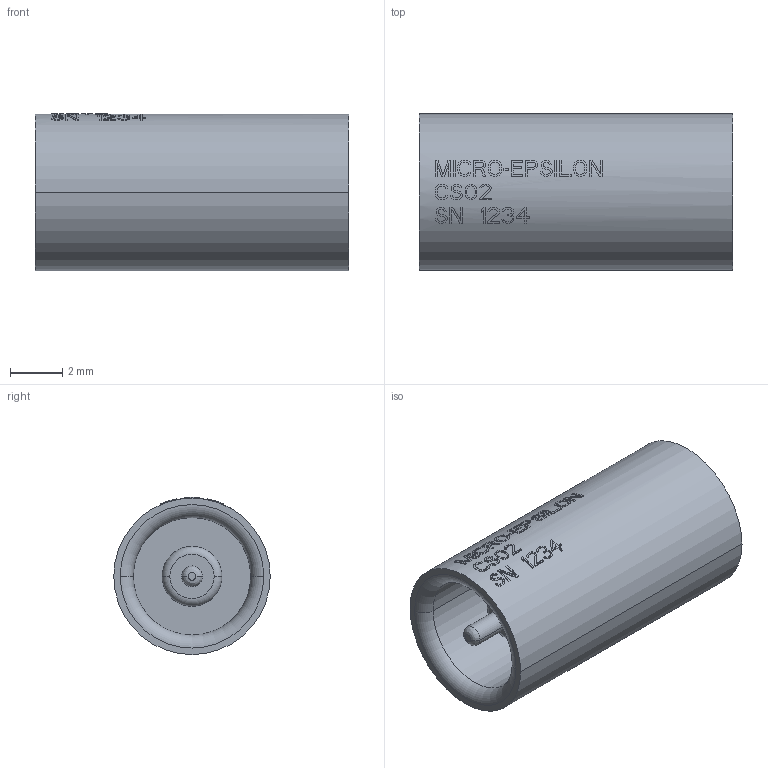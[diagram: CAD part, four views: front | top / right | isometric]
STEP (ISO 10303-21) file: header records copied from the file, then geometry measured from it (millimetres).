
FILE_DESCRIPTION((''),'2;1');
FILE_NAME('CS02','2009-07-30T',('11000065'),(''),'PRO/ENGINEER BY PARAMETRIC TECHNOLOGY CORPORATION, 2008490','PRO/ENGINEER BY PARAMETRIC TECHNOLOGY CORPORATION, 2008490','');
FILE_SCHEMA(('AUTOMOTIVE_DESIGN { 1 2 10303 214 0 1 1 1 }'));
Length unit declared in the file: millimetre
Products named in the file (1): CS02
Bounding box: 12 x 6 x 6.03 mm (x, y, z)
Volume: 283.3 mm3; surface area: 356.4 mm2
Topology: 1 solids, 1 shells, 685 faces, 1931 edges, 1284 vertices
Faces by surface type: plane 630, cylinder 47, torus 4, cone 2, bspline 2
Entity records: 28075 total; most frequent: CARTESIAN_POINT 5665, ORIENTED_EDGE 3862, DIRECTION 2669, PRESENTATION_STYLE_ASSIGNMENT 1959, STYLED_ITEM 1934, CURVE_STYLE 1931, EDGE_CURVE 1931, VERTEX_POINT 1284
